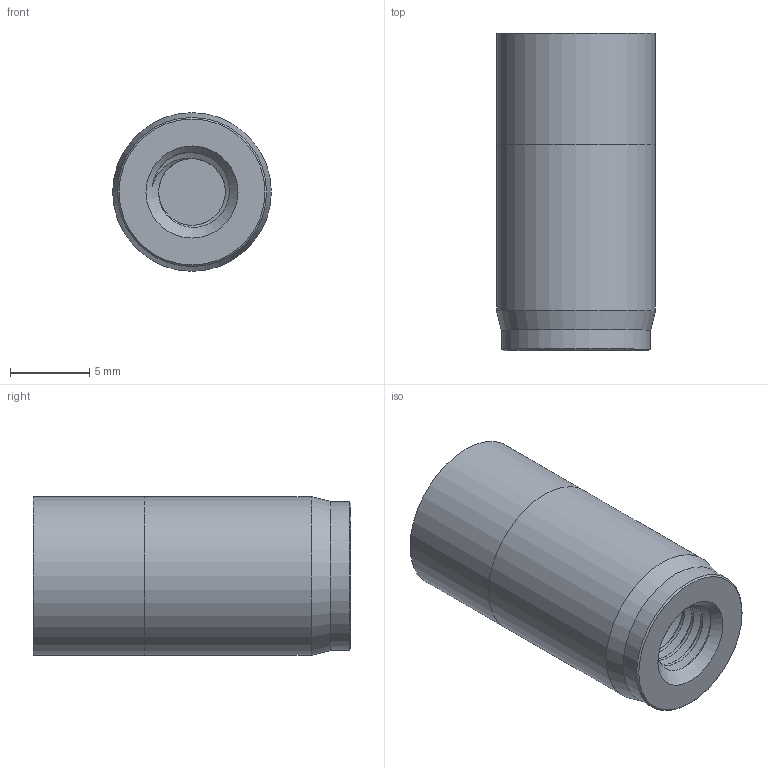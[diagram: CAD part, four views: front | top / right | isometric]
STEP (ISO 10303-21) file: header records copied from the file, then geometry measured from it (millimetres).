
FILE_DESCRIPTION (( 'STEP AP214' ), '1' );
FILE_NAME ('DAP-10.STEP', '2018-10-09T17:56:24', ( '' ), ( '' ), 'SwSTEP 2.0', 'SolidWorks 2017', '' );
FILE_SCHEMA (( 'AUTOMOTIVE_DESIGN' ));
Length unit declared in the file: millimetre
Products named in the file (1): DAP-10
Bounding box: 10 x 20.01 x 10 mm (x, y, z)
Volume: 1356.4 mm3; surface area: 1117.9 mm2
Topology: 2 solids, 2 shells, 88 faces, 226 edges, 150 vertices
Faces by surface type: plane 44, cylinder 38, cone 3, bspline 3
Full cylindrical faces by diameter (mm): 4.2 x4, 4.6 x1, 9.4 x1, 10 x2
Entity records: 3629 total; most frequent: CARTESIAN_POINT 1630, ORIENTED_EDGE 406, DIRECTION 299, EDGE_CURVE 203, VERTEX_POINT 139, VECTOR 111, LINE 111, EDGE_LOOP 102
